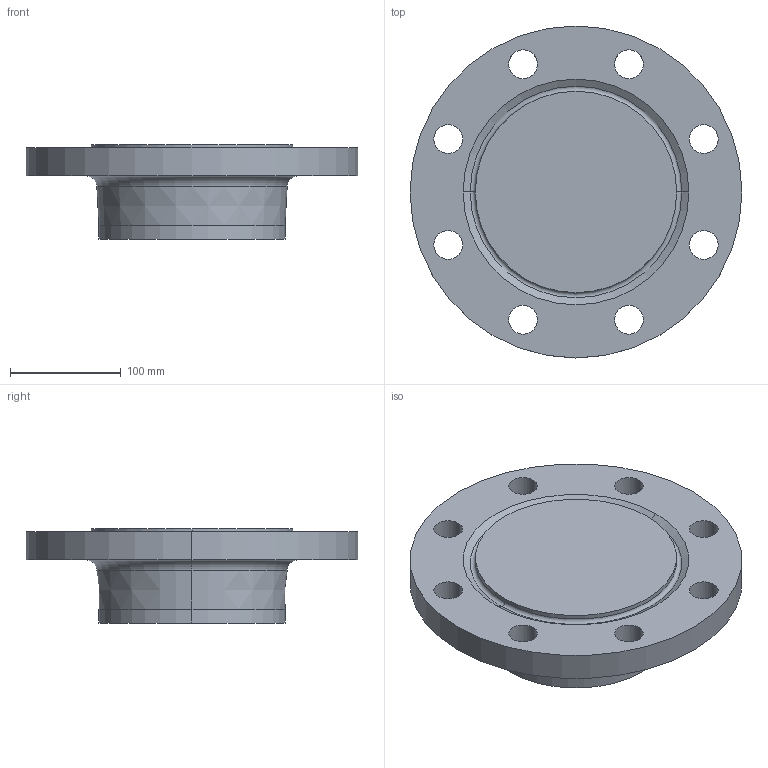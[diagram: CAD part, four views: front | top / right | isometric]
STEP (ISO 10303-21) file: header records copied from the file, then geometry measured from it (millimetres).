
FILE_DESCRIPTION (( 'STEP AP214' ), '1' );
FILE_NAME ('PN40 DN150 Type 21(ii) - Type H Face.STEP', '2019-01-02T23:05:09', ( '' ), ( '' ), 'SwSTEP 2.0', 'SolidWorks 2019', '' );
FILE_SCHEMA (( 'AUTOMOTIVE_DESIGN' ));
Length unit declared in the file: millimetre
Products named in the file (1): PN40 DN150 Type 21(ii) - Type H Face
Bounding box: 300 x 300 x 85 mm (x, y, z)
Volume: 3047212.3 mm3; surface area: 204836.9 mm2
Topology: 1 solids, 1 shells, 36 faces, 86 edges, 54 vertices
Faces by surface type: cylinder 22, torus 6, cone 4, plane 4
Entity records: 1136 total; most frequent: DIRECTION 220, CARTESIAN_POINT 177, ORIENTED_EDGE 172, AXIS2_PLACEMENT_3D 97, EDGE_CURVE 86, CIRCLE 60, EDGE_LOOP 54, VERTEX_POINT 54
